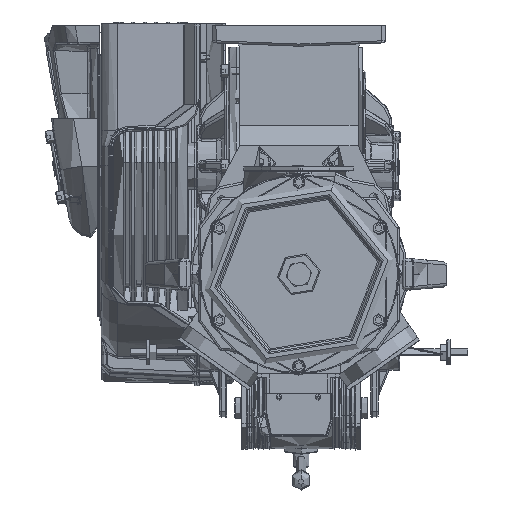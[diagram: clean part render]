
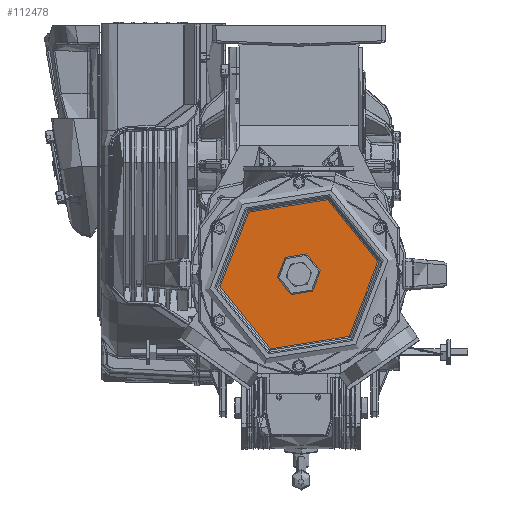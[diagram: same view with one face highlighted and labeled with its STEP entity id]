
A CAD part, front view. The second image highlights one B-rep face of the part: STEP entity #112478.
In plain terms, the highlighted planar face has unit normal (0, -1, 0).
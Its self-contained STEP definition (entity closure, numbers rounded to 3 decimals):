
#14384 = DIRECTION ( 'NONE',  ( 0., -1., 0. ) ) ;
#23402 = DIRECTION ( 'NONE',  ( -0.358, 0., -0.934 ) ) ;
#27769 = EDGE_CURVE ( 'NONE', #210202, #229056, #210298, .T. ) ;
#34559 = CARTESIAN_POINT ( 'NONE',  ( 54.299, -486.233, 3.721 ) ) ;
#35045 = EDGE_LOOP ( 'NONE', ( #241584, #273829 ) ) ;
#35833 = EDGE_CURVE ( 'NONE', #229056, #210202, #165109, .T. ) ;
#36682 = CARTESIAN_POINT ( 'NONE',  ( 43.496, -486.233, -24.434 ) ) ;
#37121 = DIRECTION ( 'NONE',  ( -0.358, 0., -0.934 ) ) ;
#65301 = CARTESIAN_POINT ( 'NONE',  ( 148.063, -486.233, -64.556 ) ) ;
#87446 = DIRECTION ( 'NONE',  ( -0.358, 0., -0.934 ) ) ;
#92407 = FACE_BOUND ( 'NONE', #35045, .T. ) ;
#94919 = CARTESIAN_POINT ( 'NONE',  ( 83.173, -486.233, 78.973 ) ) ;
#102534 = CIRCLE ( 'NONE', #221965, 30.156 ) ;
#112478 = ADVANCED_FACE ( 'NONE', ( #146639, #92407 ), #224678, .T. ) ;
#123514 = CARTESIAN_POINT ( 'NONE',  ( 43.496, -486.233, -24.434 ) ) ;
#132718 = CARTESIAN_POINT ( 'NONE',  ( 3.819, -486.233, -127.84 ) ) ;
#140139 = DIRECTION ( 'NONE',  ( 0., -1., 0. ) ) ;
#146639 = FACE_OUTER_BOUND ( 'NONE', #175709, .T. ) ;
#152313 = DIRECTION ( 'NONE',  ( 0., -1., 0. ) ) ;
#152586 = AXIS2_PLACEMENT_3D ( 'NONE', #123514, #152313, #23402 ) ;
#159354 = CARTESIAN_POINT ( 'NONE',  ( 43.496, -486.233, -24.434 ) ) ;
#164911 = VERTEX_POINT ( 'NONE', #218084 ) ;
#165109 = CIRCLE ( 'NONE', #327621, 110.757 ) ;
#175709 = EDGE_LOOP ( 'NONE', ( #182027, #267260 ) ) ;
#177121 = AXIS2_PLACEMENT_3D ( 'NONE', #216386, #319851, #87446 ) ;
#182027 = ORIENTED_EDGE ( 'NONE', *, *, #35833, .T. ) ;
#187576 = AXIS2_PLACEMENT_3D ( 'NONE', #65301, #14384, #328154 ) ;
#210202 = VERTEX_POINT ( 'NONE', #94919 ) ;
#210298 = CIRCLE ( 'NONE', #177121, 110.757 ) ;
#216386 = CARTESIAN_POINT ( 'NONE',  ( 43.496, -486.233, -24.434 ) ) ;
#218084 = CARTESIAN_POINT ( 'NONE',  ( 32.693, -486.233, -52.589 ) ) ;
#219212 = EDGE_CURVE ( 'NONE', #164911, #220752, #298883, .T. ) ;
#220752 = VERTEX_POINT ( 'NONE', #34559 ) ;
#221965 = AXIS2_PLACEMENT_3D ( 'NONE', #159354, #269523, #37121 ) ;
#224678 = PLANE ( 'NONE',  #187576 ) ;
#229056 = VERTEX_POINT ( 'NONE', #132718 ) ;
#241584 = ORIENTED_EDGE ( 'NONE', *, *, #279523, .F. ) ;
#243634 = DIRECTION ( 'NONE',  ( -0.358, 0., -0.934 ) ) ;
#267260 = ORIENTED_EDGE ( 'NONE', *, *, #27769, .T. ) ;
#269523 = DIRECTION ( 'NONE',  ( 0., -1., 0. ) ) ;
#273829 = ORIENTED_EDGE ( 'NONE', *, *, #219212, .F. ) ;
#279523 = EDGE_CURVE ( 'NONE', #220752, #164911, #102534, .T. ) ;
#298883 = CIRCLE ( 'NONE', #152586, 30.156 ) ;
#319851 = DIRECTION ( 'NONE',  ( 0., -1., 0. ) ) ;
#327621 = AXIS2_PLACEMENT_3D ( 'NONE', #36682, #140139, #243634 ) ;
#328154 = DIRECTION ( 'NONE',  ( -0.358, 0., -0.934 ) ) ;
